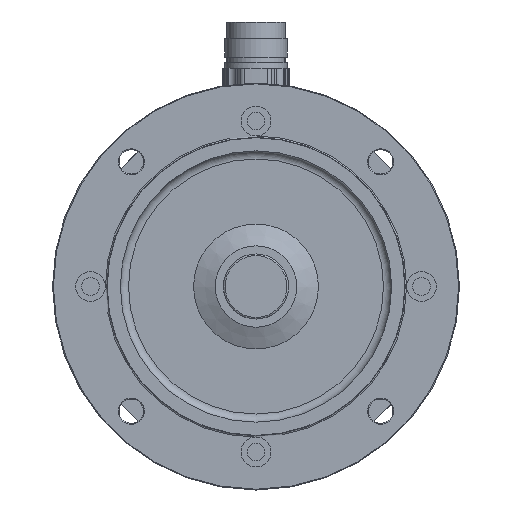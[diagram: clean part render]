
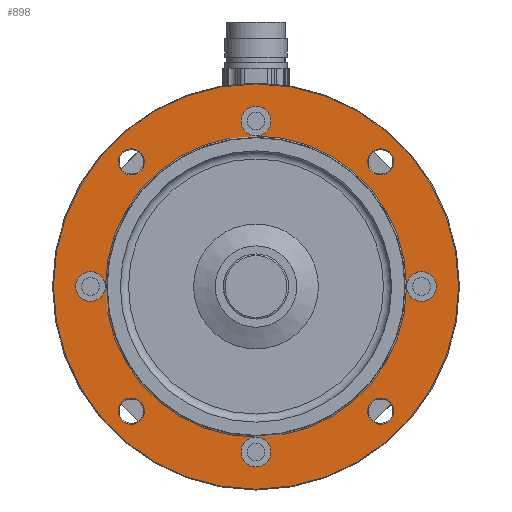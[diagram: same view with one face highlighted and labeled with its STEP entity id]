
A CAD part, front view. The second image highlights one B-rep face of the part: STEP entity #898.
In plain terms, the highlighted planar face has unit normal (0, -1, 0).
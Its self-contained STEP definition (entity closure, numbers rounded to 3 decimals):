
#390=PLANE('',#4280);
#470=FACE_OUTER_BOUND('',#1626,.T.);
#898=ADVANCED_FACE('',(#1332,#1333,#1334,#1335,#470,#1336),#390,.T.);
#1332=FACE_BOUND('',#1622,.T.);
#1333=FACE_BOUND('',#1623,.T.);
#1334=FACE_BOUND('',#1624,.T.);
#1335=FACE_BOUND('',#1625,.T.);
#1336=FACE_BOUND('',#1627,.T.);
#1622=EDGE_LOOP('',(#2112));
#1623=EDGE_LOOP('',(#2113));
#1624=EDGE_LOOP('',(#2114));
#1625=EDGE_LOOP('',(#2115));
#1626=EDGE_LOOP('',(#2116));
#1627=EDGE_LOOP('',(#2117,#2118,#2119,#2120,#2121,#2122,#2123,#2124));
#2112=ORIENTED_EDGE('',*,*,#3435,.T.);
#2113=ORIENTED_EDGE('',*,*,#3436,.T.);
#2114=ORIENTED_EDGE('',*,*,#3437,.T.);
#2115=ORIENTED_EDGE('',*,*,#3438,.T.);
#2116=ORIENTED_EDGE('',*,*,#3439,.T.);
#2117=ORIENTED_EDGE('',*,*,#3440,.T.);
#2118=ORIENTED_EDGE('',*,*,#3441,.T.);
#2119=ORIENTED_EDGE('',*,*,#3442,.T.);
#2120=ORIENTED_EDGE('',*,*,#3443,.T.);
#2121=ORIENTED_EDGE('',*,*,#3444,.T.);
#2122=ORIENTED_EDGE('',*,*,#3445,.T.);
#2123=ORIENTED_EDGE('',*,*,#3446,.T.);
#2124=ORIENTED_EDGE('',*,*,#3447,.T.);
#3056=VERTEX_POINT('',#6354);
#3057=VERTEX_POINT('',#6356);
#3058=VERTEX_POINT('',#6358);
#3059=VERTEX_POINT('',#6360);
#3060=VERTEX_POINT('',#6362);
#3061=VERTEX_POINT('',#6364);
#3062=VERTEX_POINT('',#6366);
#3063=VERTEX_POINT('',#6369);
#3064=VERTEX_POINT('',#6372);
#3435=EDGE_CURVE('',#3056,#3056,#3904,.T.);
#3436=EDGE_CURVE('',#3057,#3057,#3905,.T.);
#3437=EDGE_CURVE('',#3058,#3058,#3906,.T.);
#3438=EDGE_CURVE('',#3059,#3059,#3907,.T.);
#3439=EDGE_CURVE('',#3060,#3060,#3908,.T.);
#3440=EDGE_CURVE('',#3061,#3061,#3909,.T.);
#3441=EDGE_CURVE('',#3061,#3062,#3910,.T.);
#3442=EDGE_CURVE('',#3062,#3062,#3911,.T.);
#3443=EDGE_CURVE('',#3062,#3063,#3912,.T.);
#3444=EDGE_CURVE('',#3063,#3063,#3913,.T.);
#3445=EDGE_CURVE('',#3063,#3064,#3914,.T.);
#3446=EDGE_CURVE('',#3064,#3064,#3915,.T.);
#3447=EDGE_CURVE('',#3064,#3061,#3916,.T.);
#3904=CIRCLE('',#4267,4.8);
#3905=CIRCLE('',#4268,4.8);
#3906=CIRCLE('',#4269,4.8);
#3907=CIRCLE('',#4270,4.8);
#3908=CIRCLE('',#4271,74.7);
#3909=CIRCLE('',#4272,5.5);
#3910=CIRCLE('',#4273,55.5);
#3911=CIRCLE('',#4274,5.5);
#3912=CIRCLE('',#4275,55.5);
#3913=CIRCLE('',#4276,5.5);
#3914=CIRCLE('',#4277,55.5);
#3915=CIRCLE('',#4278,5.5);
#3916=CIRCLE('',#4279,55.5);
#4267=AXIS2_PLACEMENT_3D('',#6353,#4944,#4945);
#4268=AXIS2_PLACEMENT_3D('',#6355,#4946,#4947);
#4269=AXIS2_PLACEMENT_3D('',#6357,#4948,#4949);
#4270=AXIS2_PLACEMENT_3D('',#6359,#4950,#4951);
#4271=AXIS2_PLACEMENT_3D('',#6361,#4952,#4953);
#4272=AXIS2_PLACEMENT_3D('',#6363,#4954,#4955);
#4273=AXIS2_PLACEMENT_3D('',#6365,#4956,#4957);
#4274=AXIS2_PLACEMENT_3D('',#6367,#4958,#4959);
#4275=AXIS2_PLACEMENT_3D('',#6368,#4960,#4961);
#4276=AXIS2_PLACEMENT_3D('',#6370,#4962,#4963);
#4277=AXIS2_PLACEMENT_3D('',#6371,#4964,#4965);
#4278=AXIS2_PLACEMENT_3D('',#6373,#4966,#4967);
#4279=AXIS2_PLACEMENT_3D('',#6374,#4968,#4969);
#4280=AXIS2_PLACEMENT_3D('',#6375,#4970,#4971);
#4944=DIRECTION('',(0.,1.,0.));
#4945=DIRECTION('',(0.,0.,-1.));
#4946=DIRECTION('',(0.,1.,0.));
#4947=DIRECTION('',(0.,0.,-1.));
#4948=DIRECTION('',(0.,1.,0.));
#4949=DIRECTION('',(0.,0.,-1.));
#4950=DIRECTION('',(0.,1.,0.));
#4951=DIRECTION('',(0.,0.,-1.));
#4952=DIRECTION('',(0.,-1.,0.));
#4953=DIRECTION('',(0.,0.,-1.));
#4954=DIRECTION('',(0.,1.,0.));
#4955=DIRECTION('',(0.,0.,-1.));
#4956=DIRECTION('',(0.,1.,0.));
#4957=DIRECTION('',(0.,0.,-1.));
#4958=DIRECTION('',(0.,1.,0.));
#4959=DIRECTION('',(-1.,0.,0.));
#4960=DIRECTION('',(0.,1.,0.));
#4961=DIRECTION('',(0.,0.,-1.));
#4962=DIRECTION('',(0.,1.,0.));
#4963=DIRECTION('',(0.,0.,1.));
#4964=DIRECTION('',(0.,1.,0.));
#4965=DIRECTION('',(0.,0.,-1.));
#4966=DIRECTION('',(0.,1.,0.));
#4967=DIRECTION('',(1.,0.,0.));
#4968=DIRECTION('',(0.,1.,0.));
#4969=DIRECTION('',(0.,0.,-1.));
#4970=DIRECTION('',(0.,-1.,0.));
#4971=DIRECTION('',(0.,0.,-1.));
#6353=CARTESIAN_POINT('',(45.962,0.,-45.962));
#6354=CARTESIAN_POINT('',(45.962,0.,-50.762));
#6355=CARTESIAN_POINT('',(-45.962,0.,45.962));
#6356=CARTESIAN_POINT('',(-45.962,0.,41.162));
#6357=CARTESIAN_POINT('',(45.962,0.,45.962));
#6358=CARTESIAN_POINT('',(45.962,0.,41.162));
#6359=CARTESIAN_POINT('',(-45.962,0.,-45.962));
#6360=CARTESIAN_POINT('',(-45.962,0.,-50.762));
#6361=CARTESIAN_POINT('',(0.,0.,0.));
#6362=CARTESIAN_POINT('',(0.,0.,-74.7));
#6363=CARTESIAN_POINT('',(0.,0.,-61.));
#6364=CARTESIAN_POINT('',(0.,0.,-55.5));
#6365=CARTESIAN_POINT('',(0.,0.,0.));
#6366=CARTESIAN_POINT('',(-55.5,0.,0.));
#6367=CARTESIAN_POINT('',(-61.,0.,0.));
#6368=CARTESIAN_POINT('',(0.,0.,0.));
#6369=CARTESIAN_POINT('',(0.,0.,55.5));
#6370=CARTESIAN_POINT('',(0.,0.,61.));
#6371=CARTESIAN_POINT('',(0.,0.,0.));
#6372=CARTESIAN_POINT('',(55.5,0.,0.));
#6373=CARTESIAN_POINT('',(61.,0.,0.));
#6374=CARTESIAN_POINT('',(0.,0.,0.));
#6375=CARTESIAN_POINT('',(0.,0.,0.));
